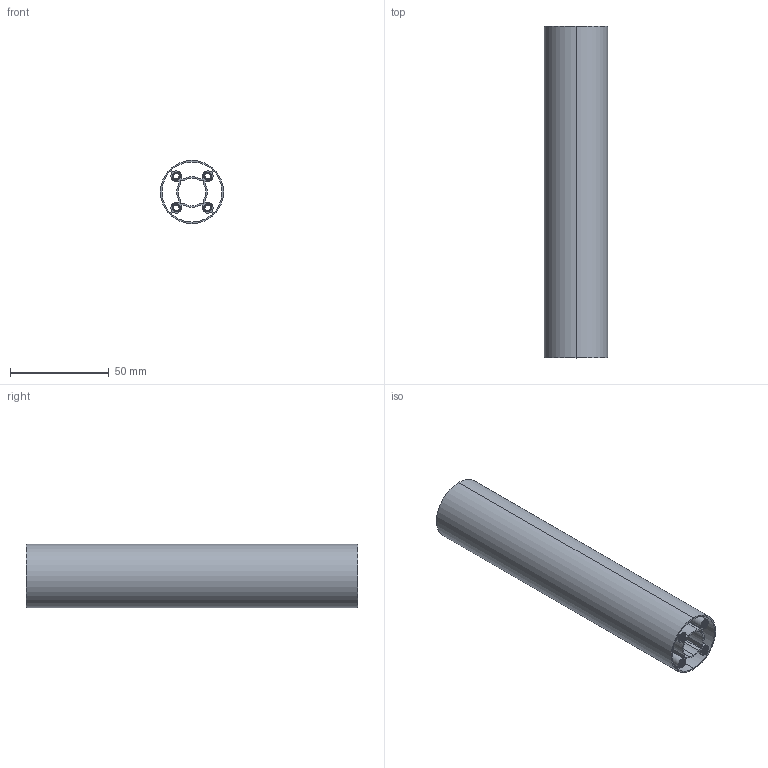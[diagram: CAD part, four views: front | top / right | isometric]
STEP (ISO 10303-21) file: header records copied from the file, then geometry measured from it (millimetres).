
FILE_DESCRIPTION (( 'STEP AP203' ), '1' );
FILE_NAME ('4103-0032-0168.STEP', '2022-09-14T13:55:37', ( '' ), ( '' ), 'SwSTEP 2.0', 'SolidWorks 2016', '' );
FILE_SCHEMA (( 'CONFIG_CONTROL_DESIGN' ));
Length unit declared in the file: millimetre
Products named in the file (1): 4103-0032-0168
Bounding box: 31.95 x 168 x 31.95 mm (x, y, z)
Volume: 28291.9 mm3; surface area: 67419.6 mm2
Topology: 1 solids, 1 shells, 781 faces, 2333 edges, 1554 vertices
Faces by surface type: cylinder 711, plane 34, cone 20, bspline 16
Entity records: 50002 total; most frequent: CARTESIAN_POINT 32717, ORIENTED_EDGE 4666, DIRECTION 2715, EDGE_CURVE 2333, VERTEX_POINT 1554, AXIS2_PLACEMENT_3D 960, EDGE_LOOP 799, LINE 795
